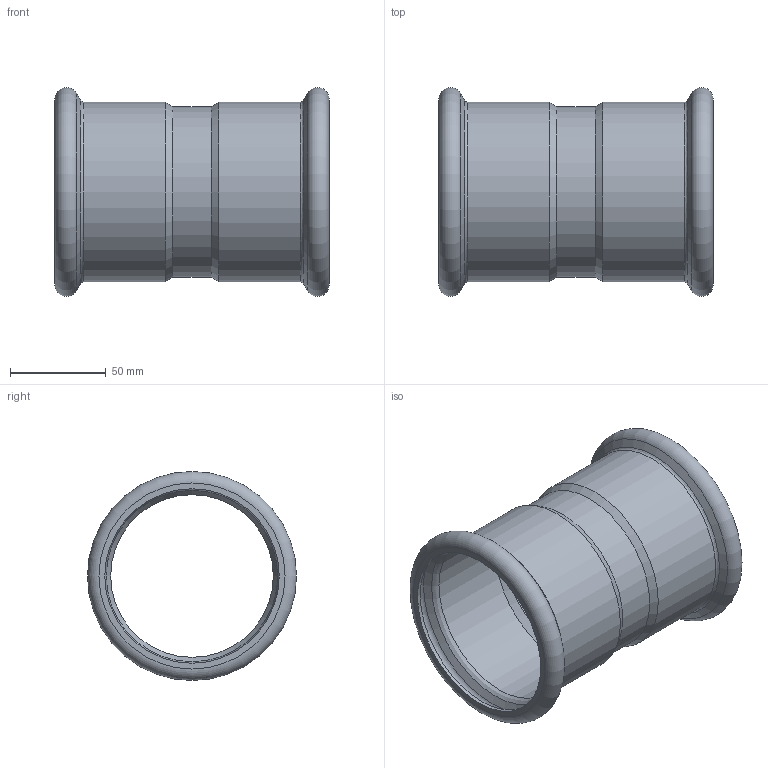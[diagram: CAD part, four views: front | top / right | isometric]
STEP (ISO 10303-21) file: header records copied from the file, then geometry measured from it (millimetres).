
FILE_DESCRIPTION((''),'2;1');
FILE_NAME('G:\Nirosan-Schmiedefeld\Technics\CAD\Bauteile\089\6927089(1).stp','2008-06-20T10:20:45',('herberg'),(''),'Autodesk Inventor 2009','Autodesk Inventor 2009','');
FILE_SCHEMA(('AUTOMOTIVE_DESIGN { 1 0 10303 214 1 1 1 1 }'));
Length unit declared in the file: millimetre
Products named in the file (1): 6927089(1)
Bounding box: 143 x 109.1 x 109.1 mm (x, y, z)
Volume: 94643.2 mm3; surface area: 95798.5 mm2
Topology: 1 solids, 1 shells, 28 faces, 54 edges, 30 vertices
Faces by surface type: cylinder 8, cone 8, bspline 4, plane 4, torus 4
Full cylindrical faces by diameter (mm): 84.9 x1, 88.9 x1, 89.5 x2, 91 x2, 93.5 x2
Entity records: 754 total; most frequent: CARTESIAN_POINT 261, DIRECTION 106, ORIENTED_EDGE 56, EDGE_LOOP 56, AXIS2_PLACEMENT_3D 53, VERTEX_POINT 28, CIRCLE 28, EDGE_CURVE 28
